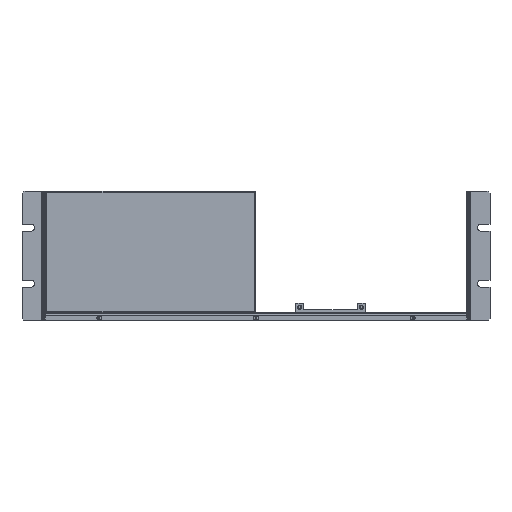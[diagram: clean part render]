
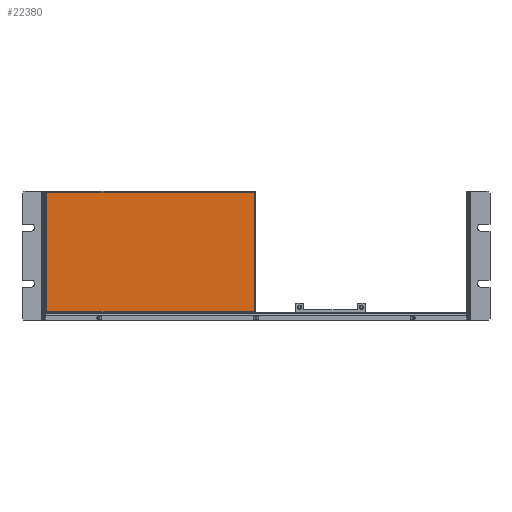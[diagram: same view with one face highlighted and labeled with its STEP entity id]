
A CAD part, top view. The second image highlights one B-rep face of the part: STEP entity #22380.
In plain terms, the highlighted planar face has unit normal (0, 0, 1).
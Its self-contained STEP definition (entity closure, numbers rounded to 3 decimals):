
#19759=DIRECTION('',(-1.,0.,0.));
#19760=VECTOR('',#19759,1.2);
#19761=CARTESIAN_POINT('',(-213.3,63.8,-3.2));
#19762=LINE('',#19761,#19760);
#19763=DIRECTION('',(1.,0.,0.));
#19764=VECTOR('',#19763,1.2);
#19765=CARTESIAN_POINT('',(-1.7,-55.8,-3.2));
#19766=LINE('',#19765,#19764);
#19767=DIRECTION('',(0.,-1.,0.));
#19768=VECTOR('',#19767,1.);
#19769=CARTESIAN_POINT('',(-214.5,-55.8,-3.2));
#19770=LINE('',#19769,#19768);
#19775=DIRECTION('',(-1.,0.,0.));
#19776=VECTOR('',#19775,1.2);
#19777=CARTESIAN_POINT('',(-213.3,-55.8,-3.2));
#19778=LINE('',#19777,#19776);
#20057=DIRECTION('',(1.,0.,0.));
#20058=VECTOR('',#20057,214.);
#20059=CARTESIAN_POINT('',(-214.5,-56.8,-3.2));
#20060=LINE('',#20059,#20058);
#20079=DIRECTION('',(0.,1.,0.));
#20080=VECTOR('',#20079,1.);
#20081=CARTESIAN_POINT('',(-0.5,-56.8,-3.2));
#20082=LINE('',#20081,#20080);
#20109=DIRECTION('',(0.,1.,0.));
#20110=VECTOR('',#20109,119.6);
#20111=CARTESIAN_POINT('',(-1.7,-55.8,-3.2));
#20112=LINE('',#20111,#20110);
#20220=DIRECTION('',(1.,0.,0.));
#20221=VECTOR('',#20220,1.2);
#20222=CARTESIAN_POINT('',(-1.7,63.8,-3.2));
#20223=LINE('',#20222,#20221);
#20228=DIRECTION('',(0.,1.,0.));
#20229=VECTOR('',#20228,1.);
#20230=CARTESIAN_POINT('',(-0.5,63.8,-3.2));
#20231=LINE('',#20230,#20229);
#20254=DIRECTION('',(-1.,0.,0.));
#20255=VECTOR('',#20254,214.);
#20256=CARTESIAN_POINT('',(-0.5,64.8,-3.2));
#20257=LINE('',#20256,#20255);
#20347=DIRECTION('',(0.,-1.,0.));
#20348=VECTOR('',#20347,1.);
#20349=CARTESIAN_POINT('',(-214.5,64.8,-3.2));
#20350=LINE('',#20349,#20348);
#20377=DIRECTION('',(0.,-1.,0.));
#20378=VECTOR('',#20377,119.6);
#20379=CARTESIAN_POINT('',(-213.3,63.8,-3.2));
#20380=LINE('',#20379,#20378);
#21789=CARTESIAN_POINT('',(-214.5,-55.8,-3.2));
#21790=CARTESIAN_POINT('',(-214.5,-56.8,-3.2));
#21791=VERTEX_POINT('',#21789);
#21792=VERTEX_POINT('',#21790);
#21793=CARTESIAN_POINT('',(-213.3,-55.8,-3.2));
#21794=VERTEX_POINT('',#21793);
#21795=CARTESIAN_POINT('',(-213.3,63.8,-3.2));
#21796=VERTEX_POINT('',#21795);
#21797=CARTESIAN_POINT('',(-214.5,63.8,-3.2));
#21798=VERTEX_POINT('',#21797);
#21799=CARTESIAN_POINT('',(-214.5,64.8,-3.2));
#21800=VERTEX_POINT('',#21799);
#21801=CARTESIAN_POINT('',(-0.5,64.8,-3.2));
#21802=VERTEX_POINT('',#21801);
#21803=CARTESIAN_POINT('',(-0.5,63.8,-3.2));
#21804=VERTEX_POINT('',#21803);
#21805=CARTESIAN_POINT('',(-1.7,63.8,-3.2));
#21806=VERTEX_POINT('',#21805);
#21807=CARTESIAN_POINT('',(-1.7,-55.8,-3.2));
#21808=VERTEX_POINT('',#21807);
#21809=CARTESIAN_POINT('',(-0.5,-55.8,-3.2));
#21810=VERTEX_POINT('',#21809);
#21811=CARTESIAN_POINT('',(-0.5,-56.8,-3.2));
#21812=VERTEX_POINT('',#21811);
#22349=CARTESIAN_POINT('',(0.,0.,-3.2));
#22350=DIRECTION('',(0.,0.,1.));
#22351=DIRECTION('',(1.,0.,0.));
#22352=AXIS2_PLACEMENT_3D('',#22349,#22350,#22351);
#22353=PLANE('',#22352);
#22355=ORIENTED_EDGE('',*,*,#22354,.F.);
#22357=ORIENTED_EDGE('',*,*,#22356,.F.);
#22359=ORIENTED_EDGE('',*,*,#22358,.F.);
#22361=ORIENTED_EDGE('',*,*,#22360,.T.);
#22363=ORIENTED_EDGE('',*,*,#22362,.F.);
#22365=ORIENTED_EDGE('',*,*,#22364,.F.);
#22367=ORIENTED_EDGE('',*,*,#22366,.F.);
#22369=ORIENTED_EDGE('',*,*,#22368,.F.);
#22371=ORIENTED_EDGE('',*,*,#22370,.F.);
#22373=ORIENTED_EDGE('',*,*,#22372,.T.);
#22375=ORIENTED_EDGE('',*,*,#22374,.F.);
#22377=ORIENTED_EDGE('',*,*,#22376,.F.);
#22378=EDGE_LOOP('',(#22355,#22357,#22359,#22361,#22363,#22365,#22367,#22369,
#22371,#22373,#22375,#22377));
#22379=FACE_OUTER_BOUND('',#22378,.F.);
#22380=ADVANCED_FACE('',(#22379),#22353,.T.);
#22354=EDGE_CURVE('',#21791,#21792,#19770,.T.);
#22356=EDGE_CURVE('',#21794,#21791,#19778,.T.);
#22358=EDGE_CURVE('',#21796,#21794,#20380,.T.);
#22360=EDGE_CURVE('',#21796,#21798,#19762,.T.);
#22362=EDGE_CURVE('',#21800,#21798,#20350,.T.);
#22364=EDGE_CURVE('',#21802,#21800,#20257,.T.);
#22366=EDGE_CURVE('',#21804,#21802,#20231,.T.);
#22368=EDGE_CURVE('',#21806,#21804,#20223,.T.);
#22370=EDGE_CURVE('',#21808,#21806,#20112,.T.);
#22372=EDGE_CURVE('',#21808,#21810,#19766,.T.);
#22374=EDGE_CURVE('',#21812,#21810,#20082,.T.);
#22376=EDGE_CURVE('',#21792,#21812,#20060,.T.);
